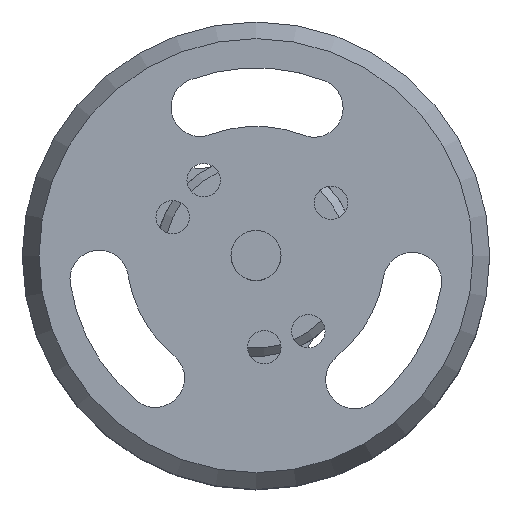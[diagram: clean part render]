
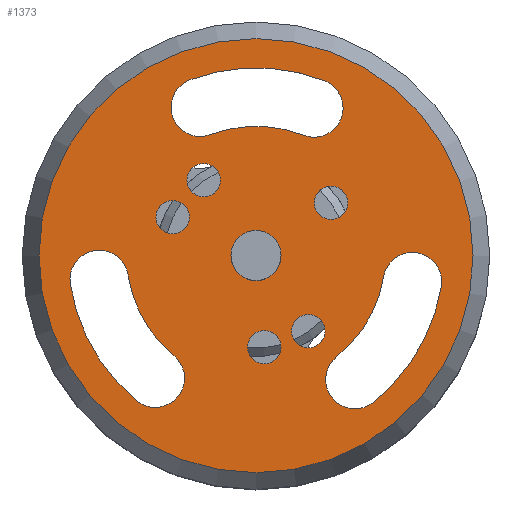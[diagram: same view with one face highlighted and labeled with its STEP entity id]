
A CAD part, top view. The second image highlights one B-rep face of the part: STEP entity #1373.
In plain terms, the highlighted planar face has unit normal (0, 0, 1).
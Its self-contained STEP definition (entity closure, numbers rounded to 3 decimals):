
#32=FACE_BOUND('',#428,.T.);
#33=FACE_BOUND('',#429,.T.);
#34=FACE_BOUND('',#430,.T.);
#35=FACE_BOUND('',#431,.T.);
#36=FACE_BOUND('',#432,.T.);
#37=FACE_BOUND('',#433,.T.);
#38=FACE_BOUND('',#434,.T.);
#39=FACE_BOUND('',#435,.T.);
#40=FACE_BOUND('',#436,.T.);
#72=PLANE('',#1530);
#331=FACE_OUTER_BOUND('',#427,.T.);
#427=EDGE_LOOP('',(#1087));
#428=EDGE_LOOP('',(#1088,#1089,#1090,#1091));
#429=EDGE_LOOP('',(#1092,#1093,#1094,#1095));
#430=EDGE_LOOP('',(#1096,#1097,#1098,#1099));
#431=EDGE_LOOP('',(#1100));
#432=EDGE_LOOP('',(#1101));
#433=EDGE_LOOP('',(#1102));
#434=EDGE_LOOP('',(#1103));
#435=EDGE_LOOP('',(#1104));
#436=EDGE_LOOP('',(#1105));
#509=CIRCLE('',#1455,7.75);
#511=CIRCLE('',#1458,1.75);
#513=CIRCLE('',#1461,11.25);
#515=CIRCLE('',#1464,1.75);
#517=CIRCLE('',#1467,7.75);
#519=CIRCLE('',#1470,1.75);
#521=CIRCLE('',#1473,11.25);
#523=CIRCLE('',#1476,1.75);
#525=CIRCLE('',#1479,7.75);
#527=CIRCLE('',#1482,1.75);
#529=CIRCLE('',#1485,11.25);
#531=CIRCLE('',#1488,1.75);
#532=CIRCLE('',#1490,1.);
#534=CIRCLE('',#1493,1.);
#536=CIRCLE('',#1496,1.);
#538=CIRCLE('',#1499,1.);
#540=CIRCLE('',#1502,1.);
#543=CIRCLE('',#1506,1.5);
#555=CIRCLE('',#1531,13.);
#627=VERTEX_POINT('',#2162);
#628=VERTEX_POINT('',#2164);
#630=VERTEX_POINT('',#2170);
#632=VERTEX_POINT('',#2176);
#635=VERTEX_POINT('',#2186);
#636=VERTEX_POINT('',#2188);
#638=VERTEX_POINT('',#2194);
#640=VERTEX_POINT('',#2200);
#643=VERTEX_POINT('',#2210);
#644=VERTEX_POINT('',#2212);
#646=VERTEX_POINT('',#2218);
#648=VERTEX_POINT('',#2224);
#649=VERTEX_POINT('',#2231);
#651=VERTEX_POINT('',#2237);
#653=VERTEX_POINT('',#2243);
#655=VERTEX_POINT('',#2249);
#657=VERTEX_POINT('',#2255);
#660=VERTEX_POINT('',#2263);
#672=VERTEX_POINT('',#2308);
#759=EDGE_CURVE('',#628,#627,#509,.T.);
#762=EDGE_CURVE('',#630,#628,#511,.T.);
#765=EDGE_CURVE('',#632,#630,#513,.T.);
#768=EDGE_CURVE('',#627,#632,#515,.T.);
#771=EDGE_CURVE('',#636,#635,#517,.T.);
#774=EDGE_CURVE('',#638,#636,#519,.T.);
#777=EDGE_CURVE('',#640,#638,#521,.T.);
#780=EDGE_CURVE('',#635,#640,#523,.T.);
#783=EDGE_CURVE('',#644,#643,#525,.T.);
#786=EDGE_CURVE('',#646,#644,#527,.T.);
#789=EDGE_CURVE('',#648,#646,#529,.T.);
#792=EDGE_CURVE('',#643,#648,#531,.T.);
#793=EDGE_CURVE('',#649,#649,#532,.T.);
#796=EDGE_CURVE('',#651,#651,#534,.T.);
#799=EDGE_CURVE('',#653,#653,#536,.T.);
#802=EDGE_CURVE('',#655,#655,#538,.T.);
#805=EDGE_CURVE('',#657,#657,#540,.T.);
#810=EDGE_CURVE('',#660,#660,#543,.T.);
#829=EDGE_CURVE('',#672,#672,#555,.T.);
#1087=ORIENTED_EDGE('',*,*,#829,.F.);
#1088=ORIENTED_EDGE('',*,*,#759,.T.);
#1089=ORIENTED_EDGE('',*,*,#768,.T.);
#1090=ORIENTED_EDGE('',*,*,#765,.T.);
#1091=ORIENTED_EDGE('',*,*,#762,.T.);
#1092=ORIENTED_EDGE('',*,*,#771,.T.);
#1093=ORIENTED_EDGE('',*,*,#780,.T.);
#1094=ORIENTED_EDGE('',*,*,#777,.T.);
#1095=ORIENTED_EDGE('',*,*,#774,.T.);
#1096=ORIENTED_EDGE('',*,*,#783,.T.);
#1097=ORIENTED_EDGE('',*,*,#792,.T.);
#1098=ORIENTED_EDGE('',*,*,#789,.T.);
#1099=ORIENTED_EDGE('',*,*,#786,.T.);
#1100=ORIENTED_EDGE('',*,*,#793,.T.);
#1101=ORIENTED_EDGE('',*,*,#796,.T.);
#1102=ORIENTED_EDGE('',*,*,#799,.T.);
#1103=ORIENTED_EDGE('',*,*,#802,.T.);
#1104=ORIENTED_EDGE('',*,*,#805,.T.);
#1105=ORIENTED_EDGE('',*,*,#810,.T.);
#1373=ADVANCED_FACE('',(#331,#32,#33,#34,#35,#36,#37,#38,#39,#40),#72,.T.);
#1455=AXIS2_PLACEMENT_3D('',#2165,#1681,#1682);
#1458=AXIS2_PLACEMENT_3D('',#2171,#1688,#1689);
#1461=AXIS2_PLACEMENT_3D('',#2177,#1695,#1696);
#1464=AXIS2_PLACEMENT_3D('',#2181,#1702,#1703);
#1467=AXIS2_PLACEMENT_3D('',#2189,#1709,#1710);
#1470=AXIS2_PLACEMENT_3D('',#2195,#1716,#1717);
#1473=AXIS2_PLACEMENT_3D('',#2201,#1723,#1724);
#1476=AXIS2_PLACEMENT_3D('',#2205,#1730,#1731);
#1479=AXIS2_PLACEMENT_3D('',#2213,#1737,#1738);
#1482=AXIS2_PLACEMENT_3D('',#2219,#1744,#1745);
#1485=AXIS2_PLACEMENT_3D('',#2225,#1751,#1752);
#1488=AXIS2_PLACEMENT_3D('',#2229,#1758,#1759);
#1490=AXIS2_PLACEMENT_3D('',#2232,#1762,#1763);
#1493=AXIS2_PLACEMENT_3D('',#2238,#1769,#1770);
#1496=AXIS2_PLACEMENT_3D('',#2244,#1776,#1777);
#1499=AXIS2_PLACEMENT_3D('',#2250,#1783,#1784);
#1502=AXIS2_PLACEMENT_3D('',#2256,#1790,#1791);
#1506=AXIS2_PLACEMENT_3D('',#2265,#1800,#1801);
#1530=AXIS2_PLACEMENT_3D('',#2307,#1855,#1856);
#1531=AXIS2_PLACEMENT_3D('',#2309,#1857,#1858);
#1681=DIRECTION('center_axis',(0.,0.,1.));
#1682=DIRECTION('ref_axis',(0.365,0.931,0.));
#1688=DIRECTION('center_axis',(0.,0.,-1.));
#1689=DIRECTION('ref_axis',(-0.365,-0.931,0.));
#1695=DIRECTION('center_axis',(0.,0.,-1.));
#1696=DIRECTION('ref_axis',(0.365,0.931,0.));
#1702=DIRECTION('center_axis',(0.,0.,-1.));
#1703=DIRECTION('ref_axis',(-0.352,0.936,0.));
#1709=DIRECTION('center_axis',(0.,0.,1.));
#1710=DIRECTION('ref_axis',(-0.989,-0.149,0.));
#1716=DIRECTION('center_axis',(0.,0.,-1.));
#1717=DIRECTION('ref_axis',(0.989,0.149,0.));
#1723=DIRECTION('center_axis',(0.,0.,-1.));
#1724=DIRECTION('ref_axis',(-0.989,-0.149,0.));
#1730=DIRECTION('center_axis',(0.,0.,-1.));
#1731=DIRECTION('ref_axis',(-0.635,-0.773,0.));
#1737=DIRECTION('center_axis',(0.,0.,1.));
#1738=DIRECTION('ref_axis',(0.624,-0.782,0.));
#1744=DIRECTION('center_axis',(0.,0.,-1.));
#1745=DIRECTION('ref_axis',(-0.624,0.782,0.));
#1751=DIRECTION('center_axis',(0.,0.,-1.));
#1752=DIRECTION('ref_axis',(0.624,-0.782,0.));
#1758=DIRECTION('center_axis',(0.,0.,-1.));
#1759=DIRECTION('ref_axis',(0.987,-0.164,0.));
#1762=DIRECTION('center_axis',(0.,0.,-1.));
#1763=DIRECTION('ref_axis',(-1.,0.,0.));
#1769=DIRECTION('center_axis',(0.,0.,-1.));
#1770=DIRECTION('ref_axis',(-1.,0.,0.));
#1776=DIRECTION('center_axis',(0.,0.,-1.));
#1777=DIRECTION('ref_axis',(-1.,0.,0.));
#1783=DIRECTION('center_axis',(0.,0.,-1.));
#1784=DIRECTION('ref_axis',(-1.,0.,0.));
#1790=DIRECTION('center_axis',(0.,0.,-1.));
#1791=DIRECTION('ref_axis',(-1.,0.,0.));
#1800=DIRECTION('center_axis',(0.,0.,-1.));
#1801=DIRECTION('ref_axis',(-1.,0.,0.));
#1855=DIRECTION('center_axis',(0.,0.,1.));
#1856=DIRECTION('ref_axis',(1.,0.,0.));
#1857=DIRECTION('center_axis',(0.,0.,-1.));
#1858=DIRECTION('ref_axis',(1.,0.,0.));
#2162=CARTESIAN_POINT('',(-2.724,7.255,22.));
#2164=CARTESIAN_POINT('',(2.83,7.215,22.));
#2165=CARTESIAN_POINT('Origin',(0.,0.,22.));
#2170=CARTESIAN_POINT('',(4.108,10.473,22.));
#2171=CARTESIAN_POINT('Origin',(3.469,8.844,22.));
#2176=CARTESIAN_POINT('',(-3.955,10.532,22.));
#2177=CARTESIAN_POINT('Origin',(0.,0.,22.));
#2181=CARTESIAN_POINT('Origin',(-3.34,8.894,22.));
#2186=CARTESIAN_POINT('',(-4.921,-5.987,22.));
#2188=CARTESIAN_POINT('',(-7.663,-1.156,22.));
#2189=CARTESIAN_POINT('Origin',(0.,0.,22.));
#2194=CARTESIAN_POINT('',(-11.124,-1.679,22.));
#2195=CARTESIAN_POINT('Origin',(-9.394,-1.417,22.));
#2200=CARTESIAN_POINT('',(-7.144,-8.691,22.));
#2201=CARTESIAN_POINT('Origin',(0.,0.,22.));
#2205=CARTESIAN_POINT('Origin',(-6.032,-7.339,22.));
#2210=CARTESIAN_POINT('',(7.646,-1.268,22.));
#2212=CARTESIAN_POINT('',(4.833,-6.058,22.));
#2213=CARTESIAN_POINT('Origin',(0.,0.,22.));
#2218=CARTESIAN_POINT('',(7.016,-8.794,22.));
#2219=CARTESIAN_POINT('Origin',(5.924,-7.426,22.));
#2224=CARTESIAN_POINT('',(11.098,-1.841,22.));
#2225=CARTESIAN_POINT('Origin',(0.,0.,22.));
#2229=CARTESIAN_POINT('Origin',(9.372,-1.555,22.));
#2231=CARTESIAN_POINT('',(5.495,3.17,22.));
#2232=CARTESIAN_POINT('Origin',(4.495,3.17,22.));
#2237=CARTESIAN_POINT('',(-2.135,4.519,22.));
#2238=CARTESIAN_POINT('Origin',(-3.135,4.519,22.));
#2243=CARTESIAN_POINT('',(4.135,-4.519,22.));
#2244=CARTESIAN_POINT('Origin',(3.135,-4.519,22.));
#2249=CARTESIAN_POINT('',(-3.993,2.307,22.));
#2250=CARTESIAN_POINT('Origin',(-4.993,2.307,22.));
#2255=CARTESIAN_POINT('',(1.498,-5.477,22.));
#2256=CARTESIAN_POINT('Origin',(0.498,-5.477,22.));
#2263=CARTESIAN_POINT('',(1.5,0.,22.));
#2265=CARTESIAN_POINT('Origin',(0.,0.,22.));
#2307=CARTESIAN_POINT('Origin',(0.,13.,22.));
#2308=CARTESIAN_POINT('',(0.,-13.,22.));
#2309=CARTESIAN_POINT('Origin',(0.,0.,22.));
